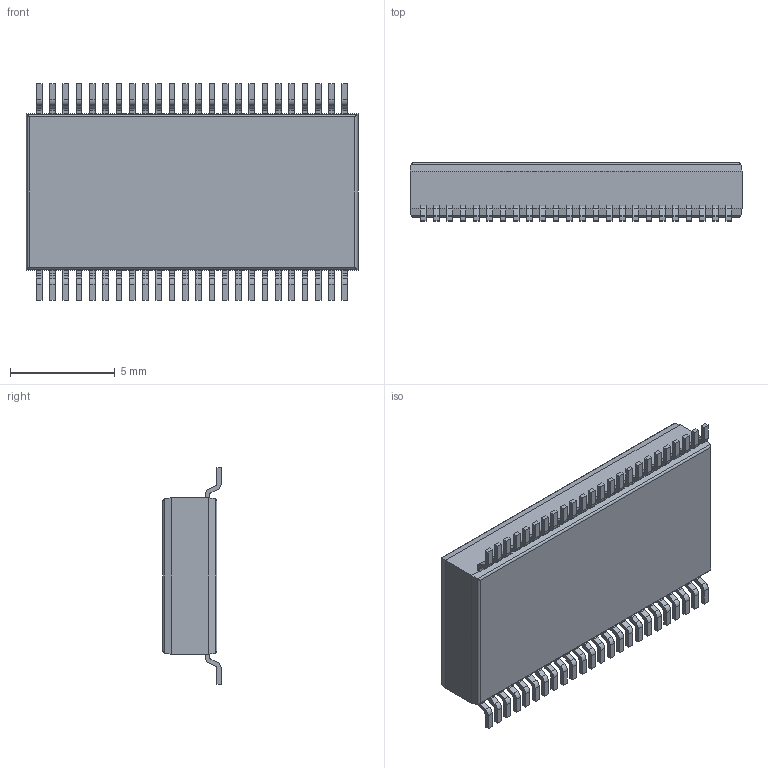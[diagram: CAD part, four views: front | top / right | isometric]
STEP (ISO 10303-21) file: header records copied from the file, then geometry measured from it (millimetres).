
FILE_DESCRIPTION (( 'STEP AP214' ), '1' );
FILE_NAME ( 'SOP63P1035X279-48.STEP', '2013-08-13T09:27:43', ( '' ), ( '' ), 'FPX Expert 2013', 'PCB Libraries', '' );
FILE_SCHEMA (( 'AUTOMOTIVE_DESIGN' ));
Length unit declared in the file: millimetre
Products named in the file (1): SOP63P1035X279-48
Bounding box: 15.88 x 2.79 x 10.35 mm (x, y, z)
Volume: 311 mm3; surface area: 433.8 mm2
Topology: 49 solids, 49 shells, 697 faces, 1778 edges, 1180 vertices
Faces by surface type: plane 495, cylinder 200, torus 2
Entity records: 23159 total; most frequent: CARTESIAN_POINT 3680, DIRECTION 3556, ORIENTED_EDGE 3556, EDGE_CURVE 1778, VECTOR 1380, LINE 1380, VERTEX_POINT 1180, AXIS2_PLACEMENT_3D 1088
